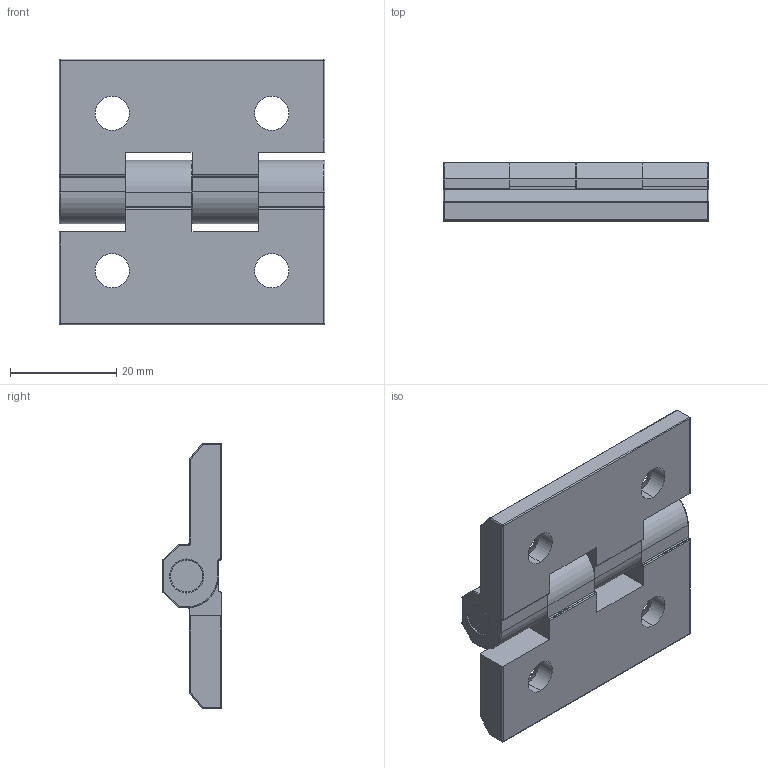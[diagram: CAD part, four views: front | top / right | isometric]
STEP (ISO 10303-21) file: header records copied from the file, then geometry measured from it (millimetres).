
FILE_DESCRIPTION (( 'STEP AP214' ), '1' );
FILE_NAME ('7214117 Assembly.STEP', '2016-10-28T00:51:03', ( 'rquinn' ), ( '' ), 'SwSTEP 2.0', 'SolidWorks 2016', '' );
FILE_SCHEMA (( 'AUTOMOTIVE_DESIGN' ));
Length unit declared in the file: millimetre
Products named in the file (3): 117 Base Part_no pins; 117 Base Part; 7214117 Assembly
Assembly tree (2 placements, depth 2):
  7214117 Assembly
    117 Base Part
    117 Base Part_no pins
Bounding box: 50 x 11 x 50 mm (x, y, z)
Volume: 14984.6 mm3; surface area: 8313.8 mm2
Topology: 2 solids, 2 shells, 178 faces, 440 edges, 254 vertices
Faces by surface type: cylinder 86, plane 52, sphere 22, torus 10, cone 8
Entity records: 5350 total; most frequent: DIRECTION 986, CARTESIAN_POINT 863, ORIENTED_EDGE 852, EDGE_CURVE 426, AXIS2_PLACEMENT_3D 377, VERTEX_POINT 254, LINE 232, VECTOR 232
